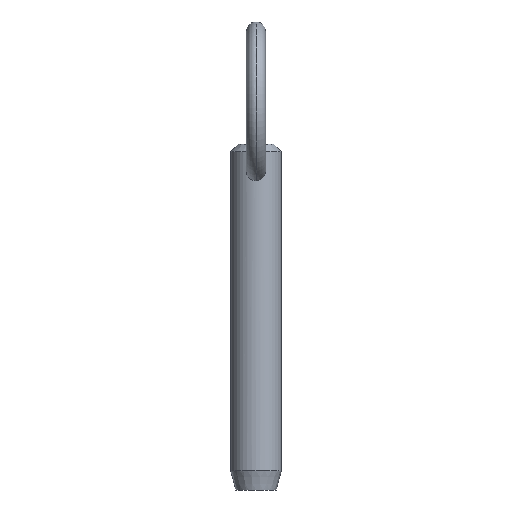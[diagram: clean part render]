
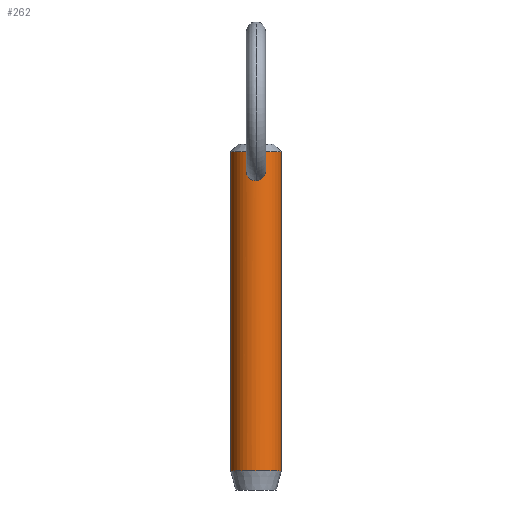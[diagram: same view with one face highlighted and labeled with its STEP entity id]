
A CAD part, front view. The second image highlights one B-rep face of the part: STEP entity #262.
In plain terms, the highlighted cylindrical face has radius 3.965 mm (diameter 7.93 mm), a partial arc.
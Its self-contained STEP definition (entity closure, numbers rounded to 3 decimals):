
#1 = VECTOR ( 'NONE', #41, 1000. ) ;
#2 = CARTESIAN_POINT ( 'NONE',  ( 0.498, -3.935, 41.844 ) ) ;
#6 = CARTESIAN_POINT ( 'NONE',  ( 0., -3.965, 41.947 ) ) ;
#13 = DIRECTION ( 'NONE',  ( 0., 0., -1. ) ) ;
#15 = CARTESIAN_POINT ( 'NONE',  ( -3.965, 0., 43.25 ) ) ;
#17 = DIRECTION ( 'NONE',  ( 0., 0., 1. ) ) ;
#23 = B_SPLINE_CURVE_WITH_KNOTS ( 'NONE', 3,
 ( #469, #410, #177, #371, #2, #39, #331, #326, #167, #176, #285, #291, #243, #328, #289, #408, #123, #362, #85, #365, #373, #444, #132, #449, #451, #209 ),
 .UNSPECIFIED., .F., .F.,
 ( 4, 2, 2, 2, 2, 2, 2, 2, 2, 2, 2, 2, 4 ),
 ( 0.004, 0.005, 0.005, 0.005, 0.006, 0.006, 0.007, 0.007, 0.007, 0.008, 0.008, 0.008, 0.009 ),
 .UNSPECIFIED. ) ;
#32 = CARTESIAN_POINT ( 'NONE',  ( -0.403, -3.946, 41.882 ) ) ;
#36 = ORIENTED_EDGE ( 'NONE', *, *, #164, .T. ) ;
#39 = CARTESIAN_POINT ( 'NONE',  ( 0.77, -3.894, 41.7 ) ) ;
#40 = CARTESIAN_POINT ( 'NONE',  ( 0., -3.965, 38.735 ) ) ;
#41 = DIRECTION ( 'NONE',  ( 0., 0., -1. ) ) ;
#70 = CARTESIAN_POINT ( 'NONE',  ( -1.335, -3.734, 39.51 ) ) ;
#73 = VERTEX_POINT ( 'NONE', #312 ) ;
#75 = DIRECTION ( 'NONE',  ( 1., 0., 0. ) ) ;
#77 = VECTOR ( 'NONE', #13, 1000. ) ;
#85 = CARTESIAN_POINT ( 'NONE',  ( 1.237, -3.77, 39.331 ) ) ;
#88 = CARTESIAN_POINT ( 'NONE',  ( 3.965, 0., 38.1 ) ) ;
#90 = CARTESIAN_POINT ( 'NONE',  ( 0., 0., -6.52 ) ) ;
#112 = CARTESIAN_POINT ( 'NONE',  ( -1.508, -3.667, 40.097 ) ) ;
#115 = CARTESIAN_POINT ( 'NONE',  ( -1.186, -3.786, 41.26 ) ) ;
#121 = DIRECTION ( 'NONE',  ( 0., 0., -1. ) ) ;
#123 = CARTESIAN_POINT ( 'NONE',  ( 1.447, -3.692, 39.793 ) ) ;
#129 = CARTESIAN_POINT ( 'NONE',  ( 0., 0., 38.1 ) ) ;
#132 = CARTESIAN_POINT ( 'NONE',  ( 0.693, -3.905, 38.89 ) ) ;
#141 = CARTESIAN_POINT ( 'NONE',  ( 0., -3.965, 38.735 ) ) ;
#154 = CARTESIAN_POINT ( 'NONE',  ( -0.498, -3.935, 41.844 ) ) ;
#159 = CARTESIAN_POINT ( 'NONE',  ( -1.441, -3.695, 40.708 ) ) ;
#163 = CARTESIAN_POINT ( 'NONE',  ( -1.48, -3.679, 39.889 ) ) ;
#164 = EDGE_CURVE ( 'NONE', #463, #247, #187, .T. ) ;
#165 = CARTESIAN_POINT ( 'NONE',  ( -1.229, -3.77, 39.339 ) ) ;
#167 = CARTESIAN_POINT ( 'NONE',  ( 1.291, -3.75, 41.083 ) ) ;
#176 = CARTESIAN_POINT ( 'NONE',  ( 1.404, -3.708, 40.801 ) ) ;
#177 = CARTESIAN_POINT ( 'NONE',  ( 0.205, -3.961, 41.934 ) ) ;
#185 = VERTEX_POINT ( 'NONE', #510 ) ;
#187 = B_SPLINE_CURVE_WITH_KNOTS ( 'NONE', 3,
 ( #40, #329, #509, #240, #511, #404, #165, #70, #318, #163, #112, #398, #159, #396, #115, #508, #277, #154, #32, #512, #402, #199 ),
 .UNSPECIFIED., .F., .F.,
 ( 4, 2, 2, 2, 2, 2, 2, 2, 2, 2, 4 ),
 ( 0.009, 0.01, 0.01, 0.011, 0.011, 0.012, 0.012, 0.013, 0.013, 0.014, 0.014 ),
 .UNSPECIFIED. ) ;
#193 = EDGE_CURVE ( 'NONE', #185, #497, #465, .T. ) ;
#197 = ORIENTED_EDGE ( 'NONE', *, *, #437, .T. ) ;
#199 = CARTESIAN_POINT ( 'NONE',  ( 0., -3.965, 41.947 ) ) ;
#203 = LINE ( 'NONE', #482, #1 ) ;
#209 = CARTESIAN_POINT ( 'NONE',  ( 0., -3.965, 38.735 ) ) ;
#210 = EDGE_CURVE ( 'NONE', #247, #463, #23, .T. ) ;
#216 = DIRECTION ( 'NONE',  ( -1., 0., 0. ) ) ;
#240 = CARTESIAN_POINT ( 'NONE',  ( -0.788, -3.891, 38.928 ) ) ;
#243 = CARTESIAN_POINT ( 'NONE',  ( 1.493, -3.673, 40.404 ) ) ;
#247 = VERTEX_POINT ( 'NONE', #6 ) ;
#262 = ADVANCED_FACE ( 'NONE', ( #478, #453 ), #308, .T. ) ;
#263 = CIRCLE ( 'NONE', #504, 3.965 ) ;
#264 = EDGE_CURVE ( 'NONE', #497, #73, #203, .T. ) ;
#269 = EDGE_LOOP ( 'NONE', ( #487, #36 ) ) ;
#277 = CARTESIAN_POINT ( 'NONE',  ( -0.77, -3.894, 41.7 ) ) ;
#285 = CARTESIAN_POINT ( 'NONE',  ( 1.434, -3.697, 40.705 ) ) ;
#289 = CARTESIAN_POINT ( 'NONE',  ( 1.499, -3.671, 40.097 ) ) ;
#291 = CARTESIAN_POINT ( 'NONE',  ( 1.479, -3.679, 40.507 ) ) ;
#302 = DIRECTION ( 'NONE',  ( -1., 0., 0. ) ) ;
#308 = CYLINDRICAL_SURFACE ( 'NONE', #476, 3.965 ) ;
#310 = EDGE_LOOP ( 'NONE', ( #506, #333, #369, #197 ) ) ;
#312 = CARTESIAN_POINT ( 'NONE',  ( -3.965, 0., -6.52 ) ) ;
#318 = CARTESIAN_POINT ( 'NONE',  ( -1.379, -3.718, 39.603 ) ) ;
#326 = CARTESIAN_POINT ( 'NONE',  ( 1.186, -3.786, 41.259 ) ) ;
#328 = CARTESIAN_POINT ( 'NONE',  ( 1.503, -3.669, 40.199 ) ) ;
#329 = CARTESIAN_POINT ( 'NONE',  ( -0.205, -3.965, 38.735 ) ) ;
#331 = CARTESIAN_POINT ( 'NONE',  ( 0.925, -3.858, 41.568 ) ) ;
#333 = ORIENTED_EDGE ( 'NONE', *, *, #193, .T. ) ;
#361 = CARTESIAN_POINT ( 'NONE',  ( 0., 0., 43.25 ) ) ;
#362 = CARTESIAN_POINT ( 'NONE',  ( 1.346, -3.73, 39.508 ) ) ;
#365 = CARTESIAN_POINT ( 'NONE',  ( 1.028, -3.83, 39.115 ) ) ;
#366 = EDGE_CURVE ( 'NONE', #185, #468, #409, .T. ) ;
#369 = ORIENTED_EDGE ( 'NONE', *, *, #264, .T. ) ;
#371 = CARTESIAN_POINT ( 'NONE',  ( 0.404, -3.946, 41.882 ) ) ;
#372 = DIRECTION ( 'NONE',  ( 0., 0., -1. ) ) ;
#373 = CARTESIAN_POINT ( 'NONE',  ( 0.949, -3.851, 39.049 ) ) ;
#378 = AXIS2_PLACEMENT_3D ( 'NONE', #361, #121, #75 ) ;
#396 = CARTESIAN_POINT ( 'NONE',  ( -1.29, -3.75, 41.085 ) ) ;
#398 = CARTESIAN_POINT ( 'NONE',  ( -1.488, -3.675, 40.505 ) ) ;
#402 = CARTESIAN_POINT ( 'NONE',  ( -0.102, -3.965, 41.947 ) ) ;
#404 = CARTESIAN_POINT ( 'NONE',  ( -1.168, -3.79, 39.259 ) ) ;
#408 = CARTESIAN_POINT ( 'NONE',  ( 1.471, -3.682, 39.894 ) ) ;
#409 = LINE ( 'NONE', #88, #77 ) ;
#410 = CARTESIAN_POINT ( 'NONE',  ( 0.102, -3.965, 41.947 ) ) ;
#437 = EDGE_CURVE ( 'NONE', #73, #468, #263, .T. ) ;
#444 = CARTESIAN_POINT ( 'NONE',  ( 0.782, -3.888, 38.937 ) ) ;
#449 = CARTESIAN_POINT ( 'NONE',  ( 0.409, -3.948, 38.774 ) ) ;
#451 = CARTESIAN_POINT ( 'NONE',  ( 0.205, -3.965, 38.735 ) ) ;
#453 = FACE_BOUND ( 'NONE', #269, .T. ) ;
#457 = CARTESIAN_POINT ( 'NONE',  ( 3.965, 0., -6.52 ) ) ;
#463 = VERTEX_POINT ( 'NONE', #141 ) ;
#465 = CIRCLE ( 'NONE', #378, 3.965 ) ;
#468 = VERTEX_POINT ( 'NONE', #457 ) ;
#469 = CARTESIAN_POINT ( 'NONE',  ( 0., -3.965, 41.947 ) ) ;
#476 = AXIS2_PLACEMENT_3D ( 'NONE', #129, #372, #216 ) ;
#478 = FACE_OUTER_BOUND ( 'NONE', #310, .T. ) ;
#482 = CARTESIAN_POINT ( 'NONE',  ( -3.965, 0., 38.1 ) ) ;
#487 = ORIENTED_EDGE ( 'NONE', *, *, #210, .T. ) ;
#497 = VERTEX_POINT ( 'NONE', #15 ) ;
#504 = AXIS2_PLACEMENT_3D ( 'NONE', #90, #17, #302 ) ;
#506 = ORIENTED_EDGE ( 'NONE', *, *, #366, .F. ) ;
#508 = CARTESIAN_POINT ( 'NONE',  ( -0.925, -3.858, 41.568 ) ) ;
#509 = CARTESIAN_POINT ( 'NONE',  ( -0.41, -3.948, 38.774 ) ) ;
#510 = CARTESIAN_POINT ( 'NONE',  ( 3.965, 0., 43.25 ) ) ;
#511 = CARTESIAN_POINT ( 'NONE',  ( -0.957, -3.85, 39.041 ) ) ;
#512 = CARTESIAN_POINT ( 'NONE',  ( -0.206, -3.961, 41.934 ) ) ;
